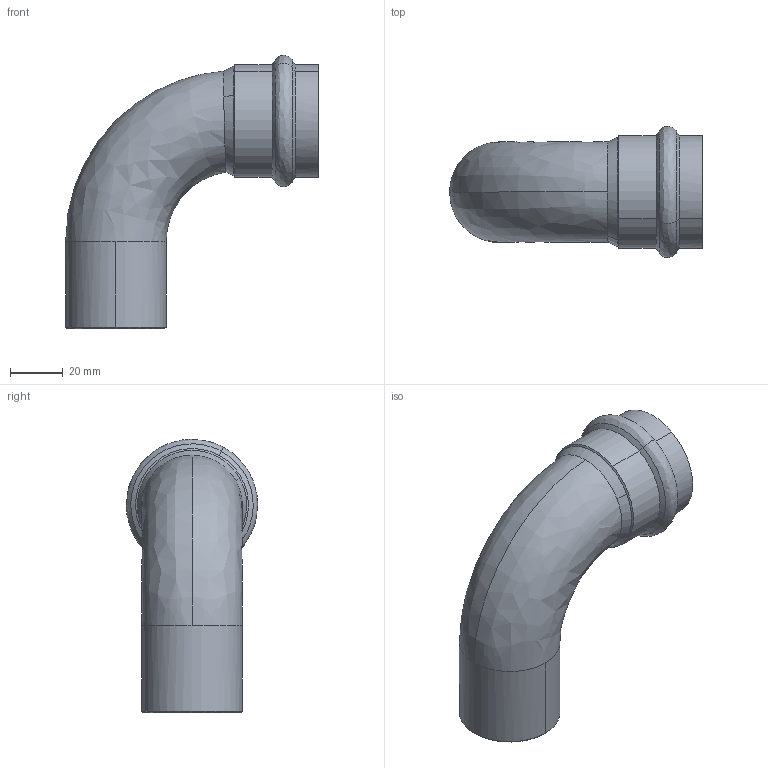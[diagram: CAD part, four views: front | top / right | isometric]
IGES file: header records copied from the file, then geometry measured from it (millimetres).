
Start section: 3D InterOp IGES (Version 25 0 1), Spatial Corp. Copyright (c) 1999-2007.
Global section: file name: pim0004438.igs; native system: Spatial Corp.; preprocessor: 3D InterOp ACIS/IGES; author: Cad-Pim; organization: TransMagic, Inc.; date: 20150430.072449; units: millimetre
Bounding box: 95.53 x 49.69 x 103.34 mm (x, y, z)
Volume: 131608.7 mm3; surface area: 23603.9 mm2
Topology: 1 solids, 1 shells, 25 faces, 69 edges, 47 vertices
Faces by surface type: cone 10, cylinder 8, bspline 7
